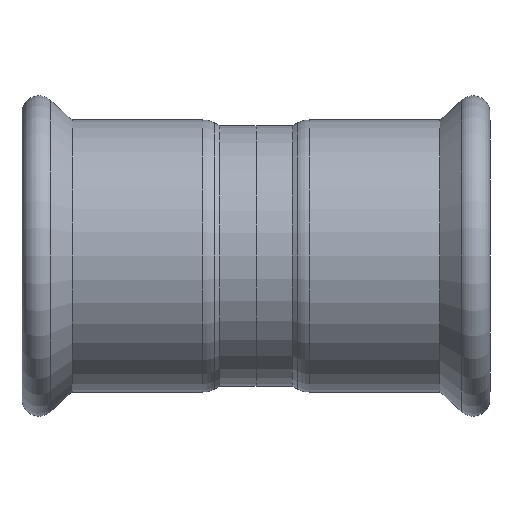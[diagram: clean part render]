
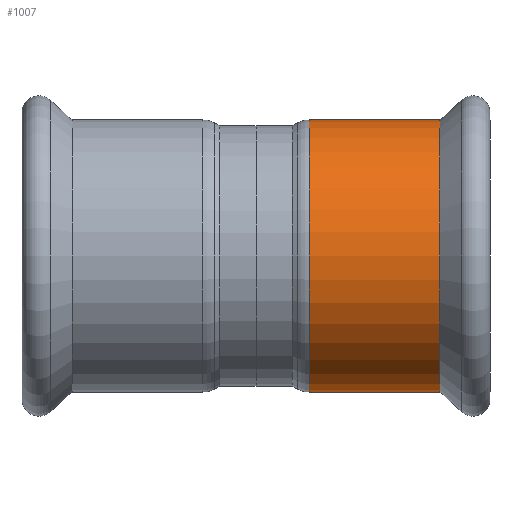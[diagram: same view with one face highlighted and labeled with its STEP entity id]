
A CAD part, front view. The second image highlights one B-rep face of the part: STEP entity #1007.
In plain terms, the highlighted cylindrical face has radius 56.4 mm (diameter 112.8 mm), a partial arc.
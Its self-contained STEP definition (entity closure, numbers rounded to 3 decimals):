
#26 = VERTEX_POINT ( 'NONE', #689 ) ;
#45 = DIRECTION ( 'NONE',  ( -1., 0., 0. ) ) ;
#50 = CARTESIAN_POINT ( 'NONE',  ( 76.207, 0., 56.4 ) ) ;
#99 = DIRECTION ( 'NONE',  ( -1., 0., 0. ) ) ;
#129 = DIRECTION ( 'NONE',  ( -1., 0., 0. ) ) ;
#145 = VECTOR ( 'NONE', #99, 1000. ) ;
#184 = VECTOR ( 'NONE', #45, 1000. ) ;
#223 = EDGE_CURVE ( 'NONE', #629, #26, #723, .T. ) ;
#275 = EDGE_CURVE ( 'NONE', #1302, #1639, #1488, .T. ) ;
#322 = AXIS2_PLACEMENT_3D ( 'NONE', #1652, #129, #1232 ) ;
#365 = DIRECTION ( 'NONE',  ( -1., 0., 0. ) ) ;
#502 = CARTESIAN_POINT ( 'NONE',  ( 76.207, 0., 0. ) ) ;
#607 = CYLINDRICAL_SURFACE ( 'NONE', #322, 56.4 ) ;
#629 = VERTEX_POINT ( 'NONE', #1603 ) ;
#662 = FACE_OUTER_BOUND ( 'NONE', #1706, .T. ) ;
#689 = CARTESIAN_POINT ( 'NONE',  ( 22., 0., 56.4 ) ) ;
#708 = EDGE_CURVE ( 'NONE', #1639, #26, #787, .T. ) ;
#723 = CIRCLE ( 'NONE', #1506, 56.4 ) ;
#787 = LINE ( 'NONE', #1422, #184 ) ;
#791 = DIRECTION ( 'NONE',  ( 0., 0., 1. ) ) ;
#900 = DIRECTION ( 'NONE',  ( 0., 0., 1. ) ) ;
#941 = ORIENTED_EDGE ( 'NONE', *, *, #223, .F. ) ;
#946 = EDGE_CURVE ( 'NONE', #1302, #629, #1017, .T. ) ;
#1007 = ADVANCED_FACE ( 'NONE', ( #662 ), #607, .T. ) ;
#1017 = LINE ( 'NONE', #1773, #145 ) ;
#1060 = ORIENTED_EDGE ( 'NONE', *, *, #946, .F. ) ;
#1171 = AXIS2_PLACEMENT_3D ( 'NONE', #502, #365, #791 ) ;
#1232 = DIRECTION ( 'NONE',  ( 0., 0., 1. ) ) ;
#1248 = CARTESIAN_POINT ( 'NONE',  ( 76.207, 0., -56.4 ) ) ;
#1262 = ORIENTED_EDGE ( 'NONE', *, *, #708, .T. ) ;
#1302 = VERTEX_POINT ( 'NONE', #1248 ) ;
#1309 = CARTESIAN_POINT ( 'NONE',  ( 22., 0., 0. ) ) ;
#1422 = CARTESIAN_POINT ( 'NONE',  ( -47.221, 0., 56.4 ) ) ;
#1488 = CIRCLE ( 'NONE', #1171, 56.4 ) ;
#1506 = AXIS2_PLACEMENT_3D ( 'NONE', #1309, #1721, #900 ) ;
#1603 = CARTESIAN_POINT ( 'NONE',  ( 22., 0., -56.4 ) ) ;
#1639 = VERTEX_POINT ( 'NONE', #50 ) ;
#1652 = CARTESIAN_POINT ( 'NONE',  ( -47.221, 0., 0. ) ) ;
#1706 = EDGE_LOOP ( 'NONE', ( #1060, #1781, #1262, #941 ) ) ;
#1721 = DIRECTION ( 'NONE',  ( -1., 0., 0. ) ) ;
#1773 = CARTESIAN_POINT ( 'NONE',  ( -47.221, 0., -56.4 ) ) ;
#1781 = ORIENTED_EDGE ( 'NONE', *, *, #275, .T. ) ;
